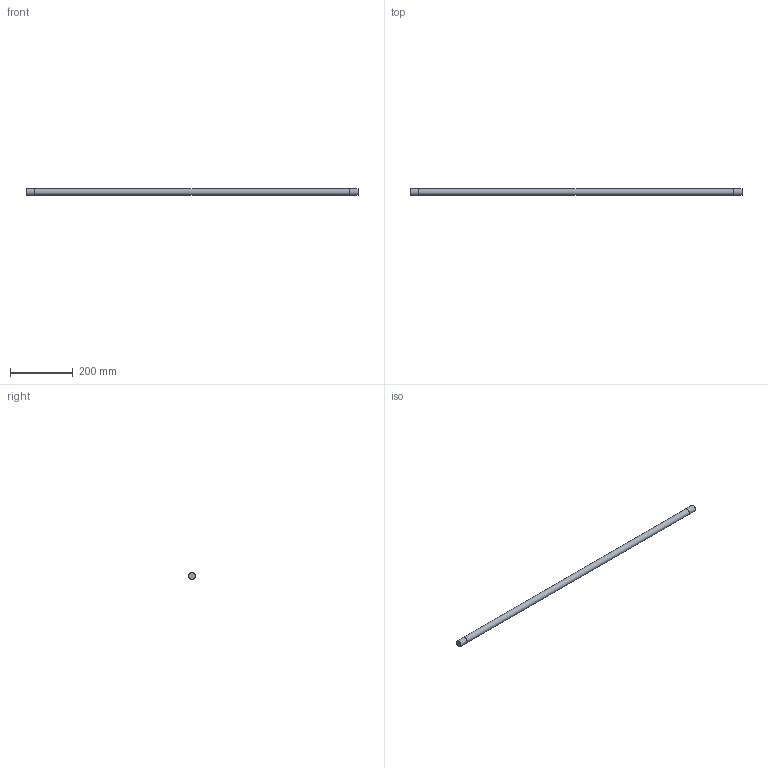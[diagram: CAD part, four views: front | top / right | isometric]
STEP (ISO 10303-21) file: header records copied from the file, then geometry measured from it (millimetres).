
FILE_DESCRIPTION(('FreeCAD Model'),'2;1');
FILE_NAME('Open CASCADE Shape Model','2026-10-12T23:06:14',('Author'),( ''),'Open CASCADE STEP processor 7.8','FreeCAD','Unknown');
FILE_SCHEMA(('AUTOMOTIVE_DESIGN { 1 0 10303 214 1 1 1 1 }'));
Length unit declared in the file: millimetre
Products named in the file (4): noodles; Rope_angel_hair_1m; EndCap_Start; EndCap_End
Assembly tree (3 placements, depth 2):
  noodles
    Rope_angel_hair_1m
    EndCap_Start
    EndCap_End
Bounding box: 1056 x 20.8 x 20.8 mm (x, y, z)
Volume: 333187.8 mm3; surface area: 68478.7 mm2
Topology: 3 solids, 3 shells, 9 faces, 9 edges, 6 vertices
Faces by surface type: plane 6, cylinder 3
Full cylindrical faces by diameter (mm): 20 x1, 20.8 x2
Entity records: 229 total; most frequent: DIRECTION 41, CARTESIAN_POINT 28, AXIS2_PLACEMENT_3D 19, ORIENTED_EDGE 18, ADVANCED_FACE 9, FACE_BOUND 9, EDGE_LOOP 9, EDGE_CURVE 9
